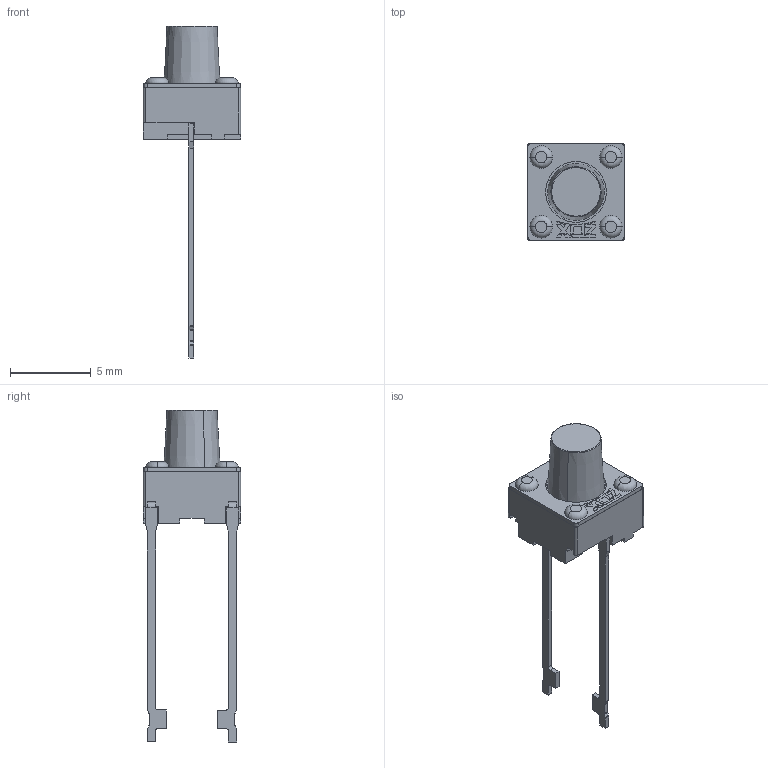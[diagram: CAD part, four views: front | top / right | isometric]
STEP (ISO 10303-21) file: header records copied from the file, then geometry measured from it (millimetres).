
FILE_DESCRIPTION((''),'2;1');
FILE_NAME('ASM0002_ASM','2024-01-06T',('WYH'),(''),'PRO/ENGINEER BY PARAMETRIC TECHNOLOGY CORPORATION, 2013040','PRO/ENGINEER BY PARAMETRIC TECHNOLOGY CORPORATION, 2013040','');
FILE_SCHEMA(('CONFIG_CONTROL_DESIGN'));
Length unit declared in the file: millimetre
Products named in the file (1): ASM0002_ASM
Bounding box: 6 x 6 x 20.51 mm (x, y, z)
Volume: 58.6 mm3; surface area: 476 mm2
Topology: 3 solids, 4 shells, 414 faces, 1074 edges, 694 vertices
Faces by surface type: plane 257, cylinder 104, torus 24, extrusion 12, bspline 11, cone 6
Entity records: 13488 total; most frequent: CARTESIAN_POINT 3184, ORIENTED_EDGE 2148, DIRECTION 2090, EDGE_CURVE 1074, VECTOR 766, LINE 754, VERTEX_POINT 694, AXIS2_PLACEMENT_3D 662
